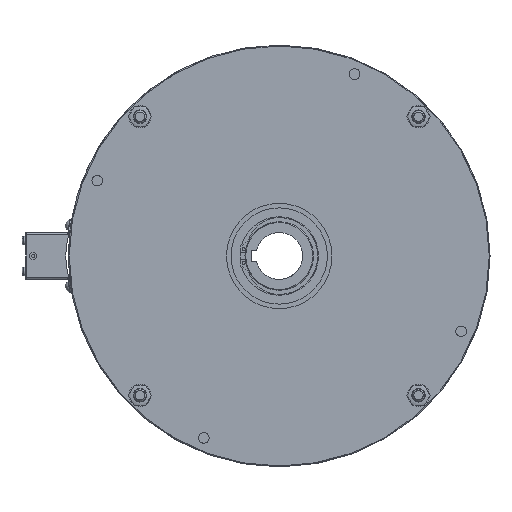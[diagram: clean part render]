
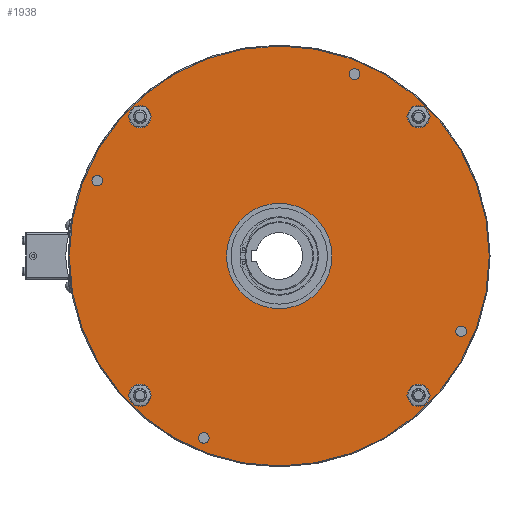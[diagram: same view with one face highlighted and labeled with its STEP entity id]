
A CAD part, left-side view. The second image highlights one B-rep face of the part: STEP entity #1938.
In plain terms, the highlighted planar face has unit normal (-1, 0, 0).
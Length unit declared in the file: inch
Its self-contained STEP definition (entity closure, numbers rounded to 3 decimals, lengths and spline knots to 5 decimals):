
#363=CARTESIAN_POINT('',(-2.3752,4.92136,-5.20266));
#364=VERTEX_POINT('',#363);
#365=CARTESIAN_POINT('',(-2.3752,5.20266,-5.20266));
#366=DIRECTION('',(1.0,0.0,0.0));
#367=DIRECTION('',(0.0,1.0,0.0));
#368=AXIS2_PLACEMENT_3D('',#365,#366,#367);
#369=CIRCLE('',#368,0.2813);
#370=EDGE_CURVE('',#364,#364,#369,.T.);
#412=CARTESIAN_POINT('',(-2.3752,4.92136,5.20266));
#413=VERTEX_POINT('',#412);
#414=CARTESIAN_POINT('',(-2.3752,5.20266,5.20266));
#415=DIRECTION('',(1.0,0.0,0.0));
#416=DIRECTION('',(0.0,1.0,0.0));
#417=AXIS2_PLACEMENT_3D('',#414,#415,#416);
#418=CIRCLE('',#417,0.2813);
#419=EDGE_CURVE('',#413,#413,#418,.T.);
#461=CARTESIAN_POINT('',(-2.3752,-5.48396,5.20266));
#462=VERTEX_POINT('',#461);
#463=CARTESIAN_POINT('',(-2.3752,-5.20266,5.20266));
#464=DIRECTION('',(1.0,0.0,0.0));
#465=DIRECTION('',(0.0,1.0,0.0));
#466=AXIS2_PLACEMENT_3D('',#463,#464,#465);
#467=CIRCLE('',#466,0.2813);
#468=EDGE_CURVE('',#462,#462,#467,.T.);
#510=CARTESIAN_POINT('',(-2.3752,-5.48396,-5.20266));
#511=VERTEX_POINT('',#510);
#512=CARTESIAN_POINT('',(-2.3752,-5.20266,-5.20266));
#513=DIRECTION('',(1.0,0.0,0.0));
#514=DIRECTION('',(0.0,1.0,0.0));
#515=AXIS2_PLACEMENT_3D('',#512,#513,#514);
#516=CIRCLE('',#515,0.2813);
#517=EDGE_CURVE('',#511,#511,#516,.T.);
#808=CARTESIAN_POINT('',(-2.3752,-3.01466,6.79761));
#809=VERTEX_POINT('',#808);
#810=CARTESIAN_POINT('',(-2.3752,-2.81566,6.79761));
#811=DIRECTION('',(1.0,0.0,0.0));
#812=DIRECTION('',(0.0,1.0,0.0));
#813=AXIS2_PLACEMENT_3D('',#810,#811,#812);
#814=CIRCLE('',#813,0.199);
#815=EDGE_CURVE('',#809,#809,#814,.T.);
#866=CARTESIAN_POINT('',(-2.3752,6.79761,3.01466));
#867=VERTEX_POINT('',#866);
#868=CARTESIAN_POINT('',(-2.3752,6.79761,2.81566));
#869=DIRECTION('',(1.0,0.0,0.0));
#870=DIRECTION('',(0.0,0.0,-1.0));
#871=AXIS2_PLACEMENT_3D('',#868,#869,#870);
#872=CIRCLE('',#871,0.199);
#873=EDGE_CURVE('',#867,#867,#872,.T.);
#924=CARTESIAN_POINT('',(-2.3752,3.01466,-6.79761));
#925=VERTEX_POINT('',#924);
#926=CARTESIAN_POINT('',(-2.3752,2.81566,-6.79761));
#927=DIRECTION('',(1.0,0.0,0.0));
#928=DIRECTION('',(0.0,-1.0,0.0));
#929=AXIS2_PLACEMENT_3D('',#926,#927,#928);
#930=CIRCLE('',#929,0.199);
#931=EDGE_CURVE('',#925,#925,#930,.T.);
#982=CARTESIAN_POINT('',(-2.3752,-6.79761,-3.01466));
#983=VERTEX_POINT('',#982);
#984=CARTESIAN_POINT('',(-2.3752,-6.79761,-2.81566));
#985=DIRECTION('',(1.0,0.0,0.0));
#986=DIRECTION('',(0.0,0.0,1.0));
#987=AXIS2_PLACEMENT_3D('',#984,#985,#986);
#988=CIRCLE('',#987,0.199);
#989=EDGE_CURVE('',#983,#983,#988,.T.);
#1130=CARTESIAN_POINT('',(-2.3752,-1.9685,0.));
#1131=VERTEX_POINT('',#1130);
#1132=CARTESIAN_POINT('',(-2.3752,0.,0.0));
#1133=DIRECTION('',(1.0,0.0,0.0));
#1134=DIRECTION('',(0.0,1.0,0.0));
#1135=AXIS2_PLACEMENT_3D('',#1132,#1133,#1134);
#1136=CIRCLE('',#1135,1.9685);
#1137=EDGE_CURVE('',#1131,#1131,#1136,.T.);
#1895=CARTESIAN_POINT('',(-2.3752,0.0,0.0));
#1896=DIRECTION('',(1.0,0.0,0.0));
#1897=DIRECTION('',(0.0,0.0,-1.0));
#1898=AXIS2_PLACEMENT_3D('',#1895,#1896,#1897);
#1899=PLANE('',#1898);
#1900=CARTESIAN_POINT('',(-2.3752,0.,7.84506));
#1901=VERTEX_POINT('',#1900);
#1902=CARTESIAN_POINT('',(-2.3752,0.0,0.0));
#1903=DIRECTION('',(1.0,0.0,0.0));
#1904=DIRECTION('',(0.0,0.0,-1.0));
#1905=AXIS2_PLACEMENT_3D('',#1902,#1903,#1904);
#1906=CIRCLE('',#1905,7.84506);
#1907=EDGE_CURVE('',#1901,#1901,#1906,.T.);
#1908=ORIENTED_EDGE('',*,*,#1907,.F.);
#1909=EDGE_LOOP('',(#1908));
#1910=FACE_OUTER_BOUND('',#1909,.T.);
#1911=ORIENTED_EDGE('',*,*,#419,.T.);
#1912=EDGE_LOOP('',(#1911));
#1913=FACE_BOUND('',#1912,.T.);
#1914=ORIENTED_EDGE('',*,*,#370,.T.);
#1915=EDGE_LOOP('',(#1914));
#1916=FACE_BOUND('',#1915,.T.);
#1917=ORIENTED_EDGE('',*,*,#517,.T.);
#1918=EDGE_LOOP('',(#1917));
#1919=FACE_BOUND('',#1918,.T.);
#1920=ORIENTED_EDGE('',*,*,#468,.T.);
#1921=EDGE_LOOP('',(#1920));
#1922=FACE_BOUND('',#1921,.T.);
#1923=ORIENTED_EDGE('',*,*,#815,.T.);
#1924=EDGE_LOOP('',(#1923));
#1925=FACE_BOUND('',#1924,.T.);
#1926=ORIENTED_EDGE('',*,*,#873,.T.);
#1927=EDGE_LOOP('',(#1926));
#1928=FACE_BOUND('',#1927,.T.);
#1929=ORIENTED_EDGE('',*,*,#931,.T.);
#1930=EDGE_LOOP('',(#1929));
#1931=FACE_BOUND('',#1930,.T.);
#1932=ORIENTED_EDGE('',*,*,#989,.T.);
#1933=EDGE_LOOP('',(#1932));
#1934=FACE_BOUND('',#1933,.T.);
#1935=ORIENTED_EDGE('',*,*,#1137,.T.);
#1936=EDGE_LOOP('',(#1935));
#1937=FACE_BOUND('',#1936,.T.);
#1938=ADVANCED_FACE('',(#1910,#1913,#1916,#1919,#1922,#1925,#1928,#1931,#1934,#1937),#1899,.F.);
